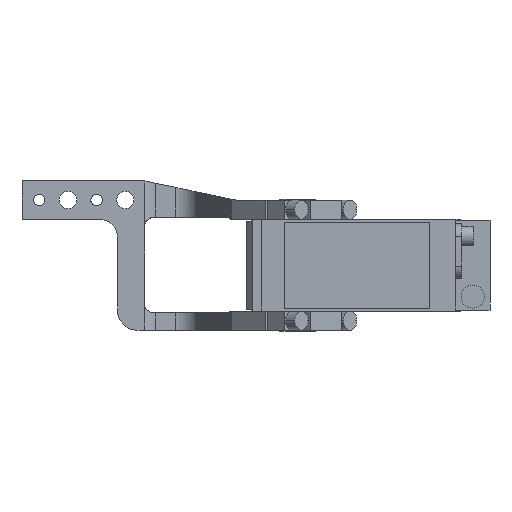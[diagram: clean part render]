
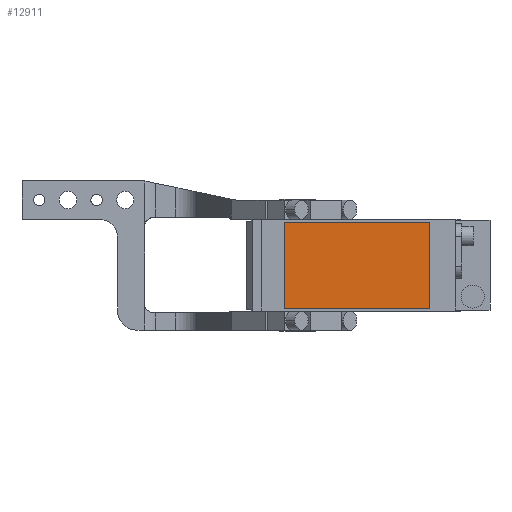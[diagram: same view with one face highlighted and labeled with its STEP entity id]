
A CAD part, front view. The second image highlights one B-rep face of the part: STEP entity #12911.
In plain terms, the highlighted planar face has unit normal (0, -1, 0).
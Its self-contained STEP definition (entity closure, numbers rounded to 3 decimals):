
#33 = DIRECTION ( 'NONE',  ( 0., -1., 0. ) ) ;
#1287 = DIRECTION ( 'NONE',  ( 0., 0., -1. ) ) ;
#1820 = VERTEX_POINT ( 'NONE', #8605 ) ;
#2030 = VERTEX_POINT ( 'NONE', #8676 ) ;
#2701 = VERTEX_POINT ( 'NONE', #2801 ) ;
#2708 = CARTESIAN_POINT ( 'NONE',  ( 69., -280.5, 22.5 ) ) ;
#2801 = CARTESIAN_POINT ( 'NONE',  ( 69., -280.5, -22.5 ) ) ;
#3107 = EDGE_LOOP ( 'NONE', ( #4846, #7079, #12903, #12025 ) ) ;
#3148 = VECTOR ( 'NONE', #1287, 1000. ) ;
#3681 = DIRECTION ( 'NONE',  ( 0., 0., 1. ) ) ;
#4056 = LINE ( 'NONE', #11522, #5582 ) ;
#4319 = DIRECTION ( 'NONE',  ( 0., 0., -1. ) ) ;
#4535 = PLANE ( 'NONE',  #5538 ) ;
#4577 = LINE ( 'NONE', #13249, #13293 ) ;
#4846 = ORIENTED_EDGE ( 'NONE', *, *, #6318, .T. ) ;
#4911 = DIRECTION ( 'NONE',  ( -1., 0., 0. ) ) ;
#5461 = CARTESIAN_POINT ( 'NONE',  ( 0., -280.5, 0. ) ) ;
#5538 = AXIS2_PLACEMENT_3D ( 'NONE', #5461, #33, #4319 ) ;
#5582 = VECTOR ( 'NONE', #4911, 1000. ) ;
#5643 = DIRECTION ( 'NONE',  ( 1., 0., 0. ) ) ;
#6318 = EDGE_CURVE ( 'NONE', #11436, #1820, #10951, .T. ) ;
#6511 = FACE_OUTER_BOUND ( 'NONE', #3107, .T. ) ;
#7079 = ORIENTED_EDGE ( 'NONE', *, *, #13787, .T. ) ;
#7154 = EDGE_CURVE ( 'NONE', #2030, #11436, #4056, .T. ) ;
#7594 = VECTOR ( 'NONE', #3681, 1000. ) ;
#7788 = EDGE_CURVE ( 'NONE', #2701, #2030, #10109, .T. ) ;
#8605 = CARTESIAN_POINT ( 'NONE',  ( -7., -280.5, -22.5 ) ) ;
#8676 = CARTESIAN_POINT ( 'NONE',  ( 69., -280.5, 22.5 ) ) ;
#10109 = LINE ( 'NONE', #2708, #7594 ) ;
#10951 = LINE ( 'NONE', #13190, #3148 ) ;
#11436 = VERTEX_POINT ( 'NONE', #13353 ) ;
#11522 = CARTESIAN_POINT ( 'NONE',  ( -7., -280.5, 22.5 ) ) ;
#12025 = ORIENTED_EDGE ( 'NONE', *, *, #7154, .T. ) ;
#12903 = ORIENTED_EDGE ( 'NONE', *, *, #7788, .T. ) ;
#12911 = ADVANCED_FACE ( 'NONE', ( #6511 ), #4535, .T. ) ;
#13190 = CARTESIAN_POINT ( 'NONE',  ( -7., -280.5, 22.5 ) ) ;
#13249 = CARTESIAN_POINT ( 'NONE',  ( -7., -280.5, -22.5 ) ) ;
#13293 = VECTOR ( 'NONE', #5643, 1000. ) ;
#13353 = CARTESIAN_POINT ( 'NONE',  ( -7., -280.5, 22.5 ) ) ;
#13787 = EDGE_CURVE ( 'NONE', #1820, #2701, #4577, .T. ) ;
